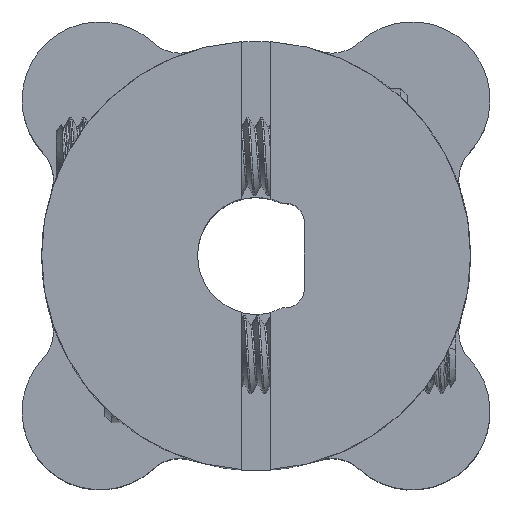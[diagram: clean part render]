
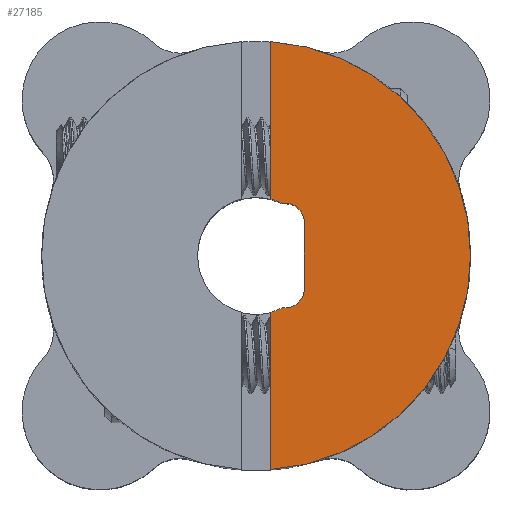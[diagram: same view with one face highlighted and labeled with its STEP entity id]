
A CAD part, top view. The second image highlights one B-rep face of the part: STEP entity #27185.
In plain terms, the highlighted planar face has unit normal (0, 0, 1).
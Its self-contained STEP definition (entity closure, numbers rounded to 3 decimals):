
#428 = ORIENTED_EDGE ( 'NONE', *, *, #10583, .F. ) ;
#496 = DIRECTION ( 'NONE',  ( 0., 0., 1. ) ) ;
#535 = VERTEX_POINT ( 'NONE', #2097 ) ;
#949 = CARTESIAN_POINT ( 'NONE',  ( 0., 0., 20. ) ) ;
#992 = DIRECTION ( 'NONE',  ( 0., -1., 0. ) ) ;
#1087 = DIRECTION ( 'NONE',  ( 0., 0., 1. ) ) ;
#1384 = CARTESIAN_POINT ( 'NONE',  ( 11., 0., 20. ) ) ;
#1520 = ORIENTED_EDGE ( 'NONE', *, *, #9652, .T. ) ;
#1598 = DIRECTION ( 'NONE',  ( 0., 0., 1. ) ) ;
#2097 = CARTESIAN_POINT ( 'NONE',  ( 0.75, 10.974, 20. ) ) ;
#4798 = CARTESIAN_POINT ( 'NONE',  ( 1.349, 2.679, 20. ) ) ;
#5102 = CARTESIAN_POINT ( 'NONE',  ( 0.75, -2.905, 20. ) ) ;
#5111 = DIRECTION ( 'NONE',  ( 1., 0., 0. ) ) ;
#5364 = AXIS2_PLACEMENT_3D ( 'NONE', #12619, #22446, #36804 ) ;
#6046 = ORIENTED_EDGE ( 'NONE', *, *, #15170, .T. ) ;
#6205 = CIRCLE ( 'NONE', #38317, 3. ) ;
#6673 = DIRECTION ( 'NONE',  ( 0., 0., -1. ) ) ;
#7927 = VERTEX_POINT ( 'NONE', #38196 ) ;
#8029 = CARTESIAN_POINT ( 'NONE',  ( 2.48, 0., 20. ) ) ;
#9222 = ORIENTED_EDGE ( 'NONE', *, *, #29633, .F. ) ;
#9652 = EDGE_CURVE ( 'NONE', #11496, #35575, #44029, .T. ) ;
#10565 = AXIS2_PLACEMENT_3D ( 'NONE', #39684, #43410, #29278 ) ;
#10583 = EDGE_CURVE ( 'NONE', #19433, #13453, #6205, .T. ) ;
#10974 = ORIENTED_EDGE ( 'NONE', *, *, #43533, .T. ) ;
#11496 = VERTEX_POINT ( 'NONE', #18401 ) ;
#11561 = CARTESIAN_POINT ( 'NONE',  ( 0., 0., 20. ) ) ;
#11708 = ORIENTED_EDGE ( 'NONE', *, *, #12217, .T. ) ;
#12061 = CARTESIAN_POINT ( 'NONE',  ( 0., 0., 20. ) ) ;
#12217 = EDGE_CURVE ( 'NONE', #39993, #7927, #19606, .T. ) ;
#12306 = CARTESIAN_POINT ( 'NONE',  ( 0.75, 2.905, 20. ) ) ;
#12619 = CARTESIAN_POINT ( 'NONE',  ( 0., 0., 20. ) ) ;
#13408 = AXIS2_PLACEMENT_3D ( 'NONE', #20348, #6673, #37751 ) ;
#13453 = VERTEX_POINT ( 'NONE', #27085 ) ;
#13703 = EDGE_CURVE ( 'NONE', #40413, #535, #32608, .T. ) ;
#14349 = LINE ( 'NONE', #29384, #38697 ) ;
#14641 = CARTESIAN_POINT ( 'NONE',  ( 0.75, -16.346, 20. ) ) ;
#14659 = EDGE_LOOP ( 'NONE', ( #9222, #1520, #32935, #44425, #38955, #10974, #11708, #6046, #39474, #428 ) ) ;
#14685 = VERTEX_POINT ( 'NONE', #4798 ) ;
#15170 = EDGE_CURVE ( 'NONE', #7927, #28039, #26621, .T. ) ;
#15243 = DIRECTION ( 'NONE',  ( 0., 1., 0. ) ) ;
#15506 = FACE_OUTER_BOUND ( 'NONE', #14659, .T. ) ;
#15872 = CARTESIAN_POINT ( 'NONE',  ( 1.48, -2.688, 20. ) ) ;
#18401 = CARTESIAN_POINT ( 'NONE',  ( 0.75, -10.974, 20. ) ) ;
#18523 = EDGE_CURVE ( 'NONE', #35575, #535, #25562, .T. ) ;
#18677 = CIRCLE ( 'NONE', #13408, 1. ) ;
#19379 = EDGE_CURVE ( 'NONE', #28039, #13453, #34712, .T. ) ;
#19433 = VERTEX_POINT ( 'NONE', #5102 ) ;
#19606 = LINE ( 'NONE', #8029, #27275 ) ;
#19890 = DIRECTION ( 'NONE',  ( 0., 0., 1. ) ) ;
#20348 = CARTESIAN_POINT ( 'NONE',  ( 1.48, 1.688, 20. ) ) ;
#22222 = DIRECTION ( 'NONE',  ( 0., 0., -1. ) ) ;
#22446 = DIRECTION ( 'NONE',  ( 0., 0., 1. ) ) ;
#24188 = AXIS2_PLACEMENT_3D ( 'NONE', #42907, #22222, #35074 ) ;
#25562 = CIRCLE ( 'NONE', #27646, 11. ) ;
#25580 = DIRECTION ( 'NONE',  ( 0., 1., 0. ) ) ;
#26621 = CIRCLE ( 'NONE', #24188, 1. ) ;
#27085 = CARTESIAN_POINT ( 'NONE',  ( 1.349, -2.679, 20. ) ) ;
#27185 = ADVANCED_FACE ( 'NONE', ( #15506 ), #33189, .T. ) ;
#27275 = VECTOR ( 'NONE', #992, 1000. ) ;
#27646 = AXIS2_PLACEMENT_3D ( 'NONE', #33694, #19890, #37327 ) ;
#28039 = VERTEX_POINT ( 'NONE', #15872 ) ;
#28439 = CIRCLE ( 'NONE', #5364, 3. ) ;
#28675 = AXIS2_PLACEMENT_3D ( 'NONE', #12061, #1598, #5111 ) ;
#29278 = DIRECTION ( 'NONE',  ( 1., 0., 0. ) ) ;
#29384 = CARTESIAN_POINT ( 'NONE',  ( 0.75, -16.346, 20. ) ) ;
#29633 = EDGE_CURVE ( 'NONE', #11496, #19433, #14349, .T. ) ;
#32608 = LINE ( 'NONE', #14641, #38005 ) ;
#32935 = ORIENTED_EDGE ( 'NONE', *, *, #18523, .T. ) ;
#33189 = PLANE ( 'NONE',  #28675 ) ;
#33694 = CARTESIAN_POINT ( 'NONE',  ( 0., 0., 20. ) ) ;
#34453 = CARTESIAN_POINT ( 'NONE',  ( 2.48, 1.688, 20. ) ) ;
#34712 = CIRCLE ( 'NONE', #10565, 1. ) ;
#35074 = DIRECTION ( 'NONE',  ( 1., 0., 0. ) ) ;
#35575 = VERTEX_POINT ( 'NONE', #1384 ) ;
#36000 = DIRECTION ( 'NONE',  ( 1., 0., 0. ) ) ;
#36804 = DIRECTION ( 'NONE',  ( 1., 0., 0. ) ) ;
#37327 = DIRECTION ( 'NONE',  ( 1., 0., 0. ) ) ;
#37751 = DIRECTION ( 'NONE',  ( 1., 0., 0. ) ) ;
#38005 = VECTOR ( 'NONE', #15243, 1000. ) ;
#38196 = CARTESIAN_POINT ( 'NONE',  ( 2.48, -1.688, 20. ) ) ;
#38317 = AXIS2_PLACEMENT_3D ( 'NONE', #11561, #1087, #36000 ) ;
#38475 = DIRECTION ( 'NONE',  ( 1., 0., 0. ) ) ;
#38697 = VECTOR ( 'NONE', #25580, 1000. ) ;
#38955 = ORIENTED_EDGE ( 'NONE', *, *, #43993, .F. ) ;
#39474 = ORIENTED_EDGE ( 'NONE', *, *, #19379, .T. ) ;
#39684 = CARTESIAN_POINT ( 'NONE',  ( 1.48, -1.688, 20. ) ) ;
#39993 = VERTEX_POINT ( 'NONE', #34453 ) ;
#40413 = VERTEX_POINT ( 'NONE', #12306 ) ;
#42907 = CARTESIAN_POINT ( 'NONE',  ( 1.48, -1.688, 20. ) ) ;
#43410 = DIRECTION ( 'NONE',  ( 0., 0., -1. ) ) ;
#43533 = EDGE_CURVE ( 'NONE', #14685, #39993, #18677, .T. ) ;
#43947 = AXIS2_PLACEMENT_3D ( 'NONE', #949, #496, #38475 ) ;
#43993 = EDGE_CURVE ( 'NONE', #14685, #40413, #28439, .T. ) ;
#44029 = CIRCLE ( 'NONE', #43947, 11. ) ;
#44425 = ORIENTED_EDGE ( 'NONE', *, *, #13703, .F. ) ;
